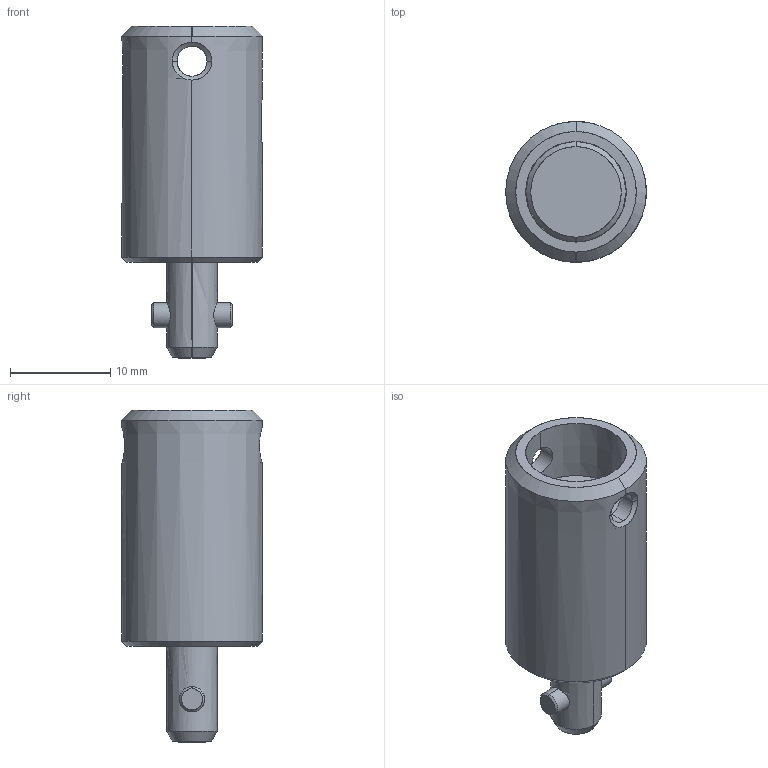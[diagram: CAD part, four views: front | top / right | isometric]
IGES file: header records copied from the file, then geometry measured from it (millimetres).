
Start section: SolidWorks IGES file using analytic representation for surfaces
Global section: file name: X:\11_SW2020-Inv2020\00_全2021-11新製品まで\q\QCSJ0514A\qcsj0514a.IGS; native system: SolidWorks 2020; preprocessor: SolidWorks 2020; author: ImaoCorp; date: 211021.171932; units: millimetre
Bounding box: 14 x 14 x 33.05 mm (x, y, z)
Surface area: 1722.2 mm2 (no closed solid volume)
Topology: 0 solids, 0 shells, 56 faces, 990 edges, 990 vertices
Faces by surface type: revolution 35, bspline 21
